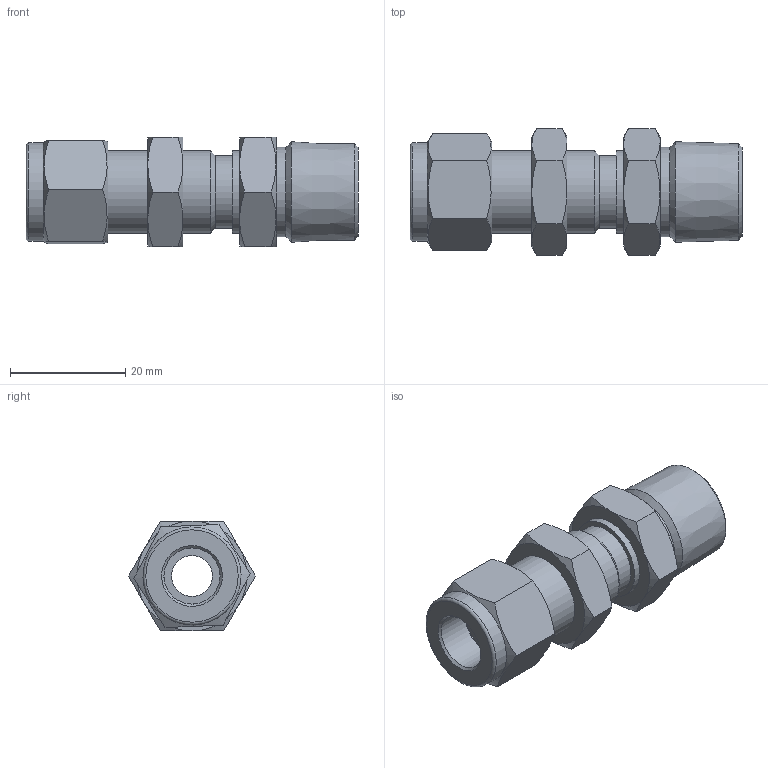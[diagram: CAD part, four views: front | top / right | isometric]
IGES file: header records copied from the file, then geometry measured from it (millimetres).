
Global section: file name: No Iges File Name specified; native system: Autodesk Inventor 2012; preprocessor: AutoDesk Inventor Iges Exporter R2012; author: 硅己绕,, ; organization: 11; date: 20150603.092533; units: millimetre
Bounding box: 57.51 x 22 x 19.05 mm (x, y, z)
Volume: 10100.6 mm3; surface area: 6887.4 mm2
Topology: 3 solids, 3 shells, 76 faces, 155 edges, 91 vertices
Faces by surface type: cone 31, plane 30, revolution 8, cylinder 6, torus 1
Full cylindrical faces by diameter (mm): 12.5 x1, 12.55 x1, 14.28 x2, 15.5 x1, 17 x1
